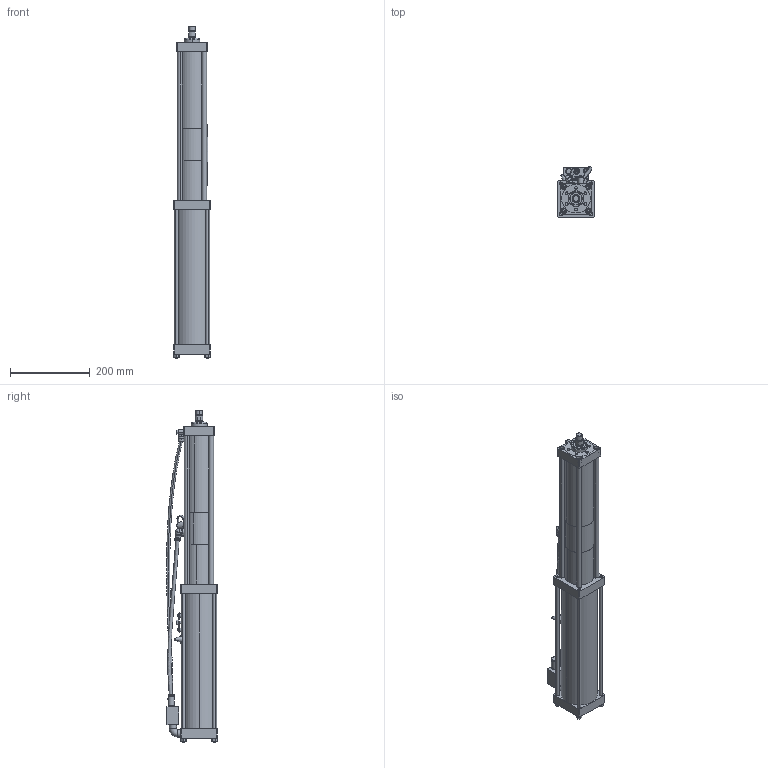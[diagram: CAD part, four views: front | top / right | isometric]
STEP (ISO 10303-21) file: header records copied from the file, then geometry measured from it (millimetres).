
FILE_DESCRIPTION (( 'STEP AP203' ), '1' );
FILE_NAME ('BS02-150-12S.step', '2025-07-31T09:39:26', ( 'Ranlm' ), ( '' ), 'SwSTEP 2.0', 'SolidWorks 2022', '' );
FILE_SCHEMA (( 'CONFIG_CONTROL_DESIGN' ));
Length unit declared in the file: millimetre
Products named in the file (1): BS02-150-12S
Bounding box: 92 x 127.28 x 833 mm (x, y, z)
Surface area: 419492.5 mm2 (no closed solid volume)
Topology: 0 solids, 51 shells, 525 faces, 1381 edges, 911 vertices
Faces by surface type: plane 240, cylinder 174, cone 73, torus 31, bspline 6, sphere 1
Entity records: 17739 total; most frequent: CARTESIAN_POINT 4475, DIRECTION 2963, ORIENTED_EDGE 2364, EDGE_CURVE 1375, AXIS2_PLACEMENT_3D 1133, VERTEX_POINT 910, LINE 697, VECTOR 697
